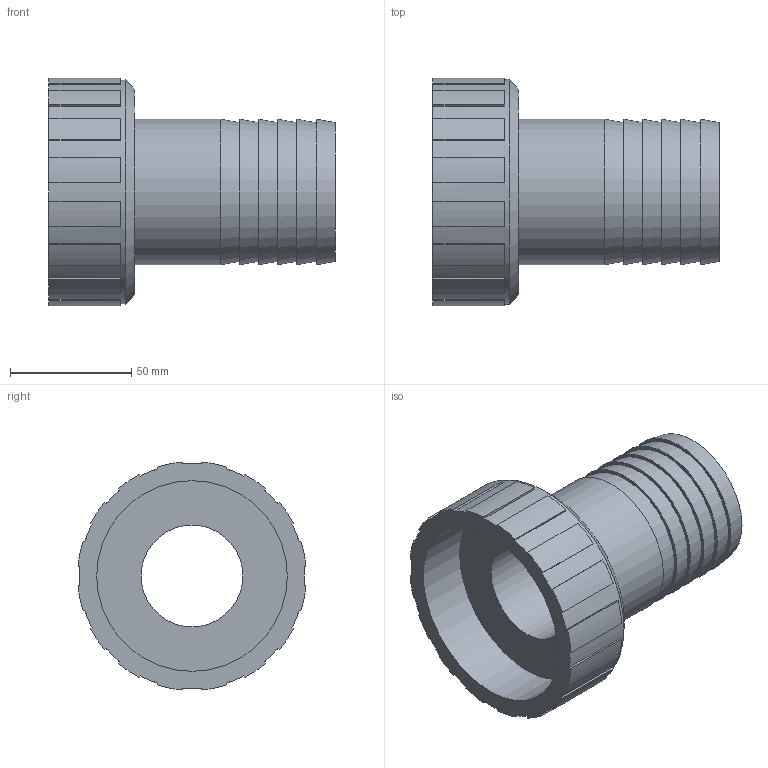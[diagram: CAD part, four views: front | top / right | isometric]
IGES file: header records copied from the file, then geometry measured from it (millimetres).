
Global section: file name: 053602060027.ipt; native system: Autodesk Inventor 2015; preprocessor: unknown; author: KIM; date: 20171207.165548; units: millimetre
Bounding box: 118 x 93.96 x 93.96 mm (x, y, z)
Volume: 231171.1 mm3; surface area: 55975.4 mm2
Topology: 1 solids, 1 shells, 84 faces, 227 edges, 152 vertices
Faces by surface type: plane 57, cylinder 18, cone 7, revolution 2
Full cylindrical faces by diameter (mm): 60 x1, 92.72 x1
